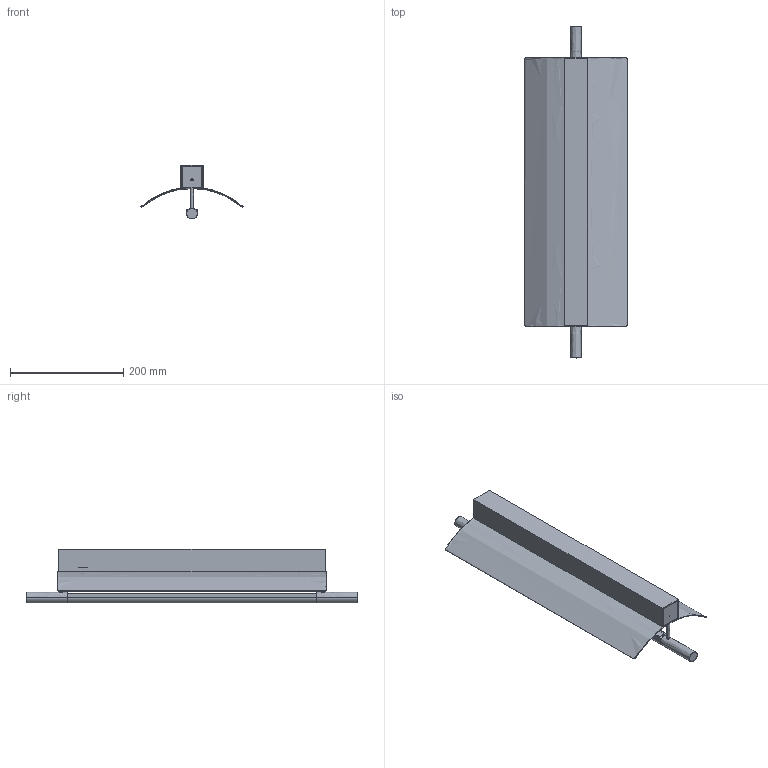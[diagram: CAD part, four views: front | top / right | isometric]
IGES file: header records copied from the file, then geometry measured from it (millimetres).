
Start section: SolidWorks IGES file using analytic representation for surfaces
Global section: file name: C:\SANTACOLE_PDM\Proyectos Catálogo\PROD-P21-004 -- LAMINA VERTICAL\6_Técnico comercial\3D\IGES\Lamina 45 aplique.IGS; native system: SolidWorks 2021; preprocessor: SolidWorks 2021; author: clara.galimany; date: 221219.095727; units: millimetre
Bounding box: 181.07 x 587 x 95.45 mm (x, y, z)
Surface area: 392498.2 mm2 (no closed solid volume)
Topology: 0 solids, 0 shells, 529 faces, 5051 edges, 5051 vertices
Faces by surface type: bspline 425, revolution 104
